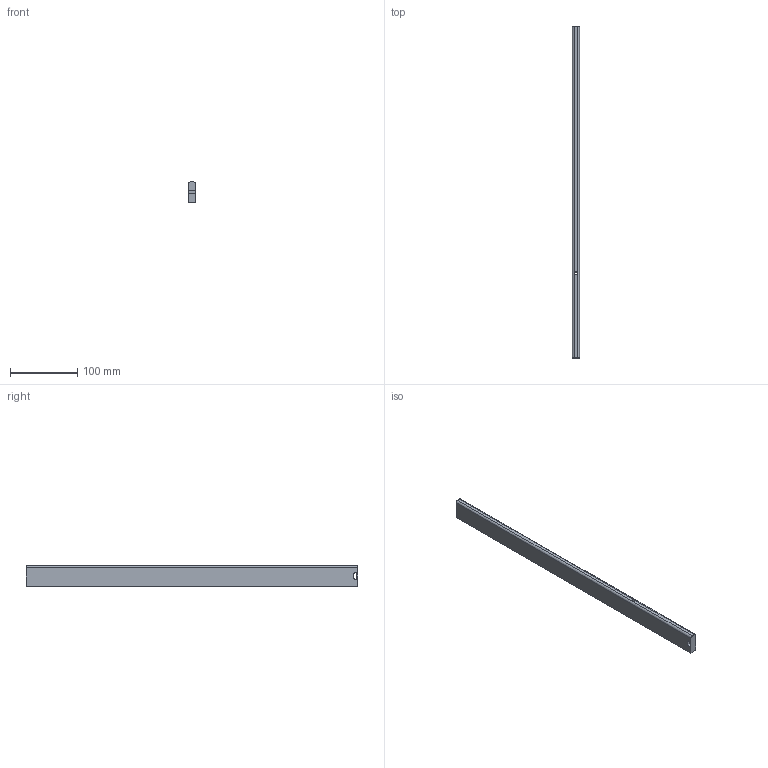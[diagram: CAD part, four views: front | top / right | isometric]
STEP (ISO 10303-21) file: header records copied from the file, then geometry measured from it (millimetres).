
FILE_DESCRIPTION (( 'STEP AP214' ), '1' );
FILE_NAME ('_Seitenreling_S760610200_RL495.step', '2010-09-06T14:51:46', ( 'grass' ), ( '' ), 'SwSTEP 2.0', 'SolidWorks 2010', '' );
FILE_SCHEMA (( 'AUTOMOTIVE_DESIGN' ));
Length unit declared in the file: millimetre
Products named in the file (1): _Seitenreling_S760610200_RL495
Bounding box: 10.5 x 495 x 30 mm (x, y, z)
Volume: 152625.2 mm3; surface area: 40161.6 mm2
Topology: 1 solids, 1 shells, 18 faces, 46 edges, 30 vertices
Faces by surface type: plane 10, cylinder 8
Entity records: 594 total; most frequent: DIRECTION 102, CARTESIAN_POINT 95, ORIENTED_EDGE 92, EDGE_CURVE 46, AXIS2_PLACEMENT_3D 37, VERTEX_POINT 30, LINE 28, VECTOR 28
